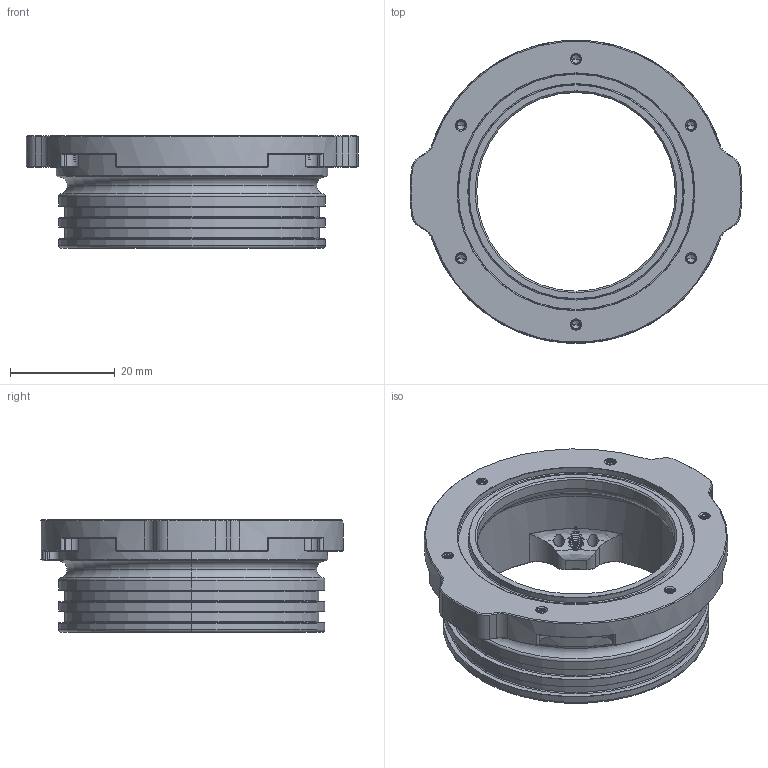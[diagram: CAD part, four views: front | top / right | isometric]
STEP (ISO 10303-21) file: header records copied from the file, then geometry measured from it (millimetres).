
FILE_DESCRIPTION (( 'STEP AP214' ), '1' );
FILE_NAME ('BR-102922-998_Rev_5.step', '2024-12-10T19:35:01', ( '' ), ( '' ), 'SwSTEP 2.0', 'SolidWorks 2024', '' );
FILE_SCHEMA (( 'AUTOMOTIVE_DESIGN' ));
Length unit declared in the file: millimetre
Products named in the file (1): BR-102922-998_Rev_5
Bounding box: 63.5 x 57.94 x 21.5 mm (x, y, z)
Volume: 13046 mm3; surface area: 11513.7 mm2
Topology: 1 solids, 1 shells, 706 faces, 1901 edges, 1198 vertices
Faces by surface type: cylinder 333, cone 161, bspline 108, plane 72, torus 32
Entity records: 76709 total; most frequent: CARTESIAN_POINT 61462, ORIENTED_EDGE 3778, DIRECTION 2632, EDGE_CURVE 1889, VERTEX_POINT 1198, AXIS2_PLACEMENT_3D 1026, EDGE_LOOP 745, ADVANCED_FACE 706
